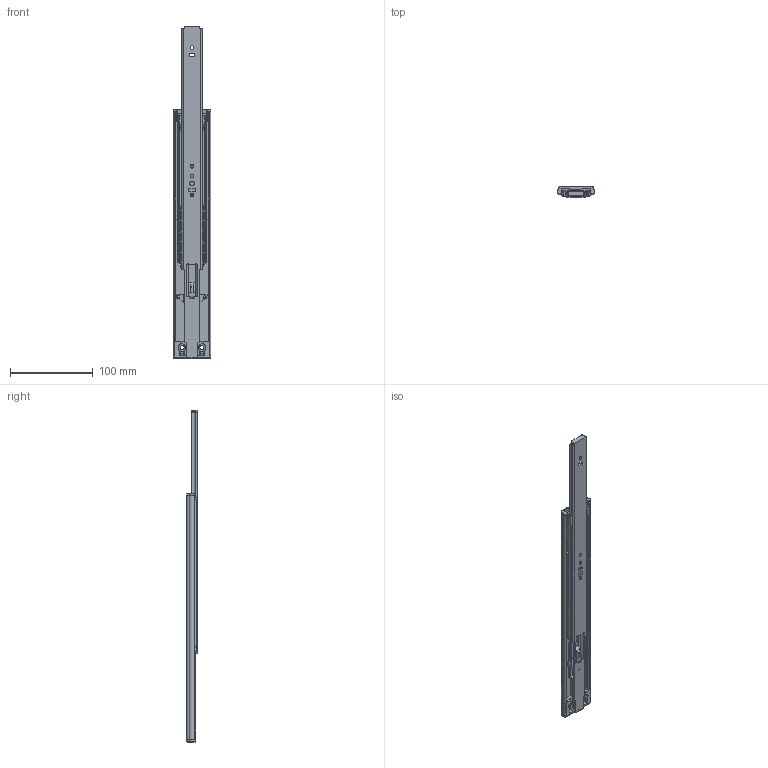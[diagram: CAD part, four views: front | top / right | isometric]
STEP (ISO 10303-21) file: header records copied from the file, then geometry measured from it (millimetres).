
FILE_DESCRIPTION((''),'2;1');
FILE_NAME('C:\Users\Jennes.SOLINGEN\Desktop\Melches\NeueFormate\TS 454613-300 SC\TS 454613 - 300mm SC.stp','2011-01-20T11:13:22',('jennes'),(''),'Autodesk Inventor 2010','Autodesk Inventor 2010','');
FILE_SCHEMA(('AUTOMOTIVE_DESIGN { 1 0 10303 214 1 1 1 1 }'));
Length unit declared in the file: millimetre
Products named in the file (24): TS 454613 - 300mm SC; Schiene gross 300; Endkappe Schiene gross; Softclose; Führung für Schieber; Gummi Puffer; Schieber; Riegel; Zylinderkolben; Zylinderstange; Kugelkäfigleiste 300; Kugel 4,75mm; Schiene mittig 300; Endkappe Schiene mittig; Kugelkäfig 300; Schiene schmall 300; Niete; Schliesser; Sicherung
Assembly tree (41 placements, depth 4):
  TS 454613 - 300mm SC
    Schiene gross 300
      Schiene gross 300
      Endkappe Schiene gross
      Softclose
        Führung für Schieber
        Gummi Puffer
        Schieber
        Riegel
        Zylinderkolben
        Zylinderstange
    Kugelkäfigleiste 300  x2
      Kugelkäfigleiste 300
      Kugel 4,75mm
    Schiene mittig 300
      Schiene mittig 300
      Endkappe Schiene mittig
    Kugelkäfig 300
      Kugelkäfig 300
      Kugel 4,75mm  x12
    Schiene schmall 300
      Schiene schmall 300
      Niete  x2
      Schliesser
      Sicherung
Bounding box: 45.98 x 12.5 x 402.38 mm (x, y, z)
Volume: 71362 mm3; surface area: 109253.3 mm2
Topology: 41 solids, 41 shells, 1480 faces, 4190 edges, 2657 vertices
Faces by surface type: plane 829, cylinder 508, torus 49, bspline 48, sphere 46
Full cylindrical faces by diameter (mm): 1.15 x1, 1.78 x2, 1.8 x1, 2.35 x2, 2.45 x1, 3 x2, 3.3 x2, 4.2 x2, 4.4 x2, 4.6 x4, 4.95 x10, 5 x4, 5.3 x1, 5.4 x1, 6.4 x1, 7.8 x2, 9 x1, 9.3 x1, 9.55 x1, 11 x3
Entity records: 48007 total; most frequent: CARTESIAN_POINT 10067, ORIENTED_EDGE 7860, DIRECTION 7753, EDGE_CURVE 3930, VECTOR 2791, LINE 2791, VERTEX_POINT 2544, AXIS2_PLACEMENT_3D 2481
